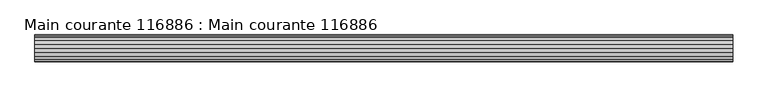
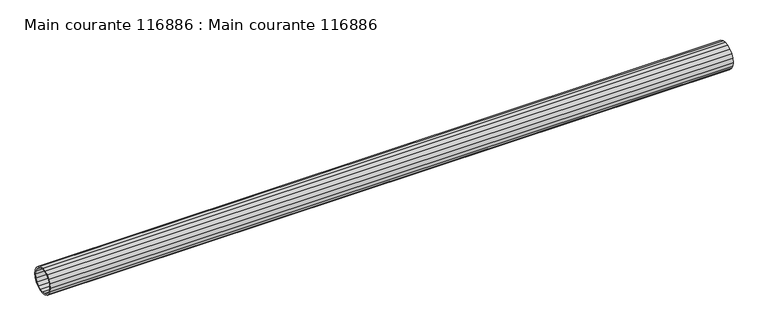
"""IFC4 building model written with IfcOpenShell, lengths in millimetres: beam geometry, Main courante 116886 : Main courante 116886."""

from ifc_helpers import new_model, si_unit, frame, origin, place, context, project, spatial, polyline, outline, extrude, source, transform, mapped, element, save


def main_courante_116886_main_courante_116886_96e47c2b(model_context):
    return source(origin(), model_context, "Body", "SweptSolid", [
        extrude(outline(polyline([(-35749.8127604, 8787.9680149), (-35742.35, 8789.15), (-35734.8872396, 8787.9680149), (-35728.1549862, 8784.5377604), (-35722.8122396, 8779.1950138), (-35719.3819851, 8772.4627604), (-35718.2, 8765.0), (-35719.3819851, 8757.5372396), (-35722.8122396, 8750.8049862), (-35728.1549862, 8745.4622396), (-35734.8872396, 8742.0319851), (-35742.35, 8740.85), (-35749.8127604, 8742.0319851), (-35756.5450138, 8745.4622396), (-35761.8877604, 8750.8049862), (-35765.3180149, 8757.5372396), (-35766.5, 8765.0), (-35765.3180149, 8772.4627604), (-35761.8877604, 8779.1950138), (-35756.5450138, 8784.5377604), (-35749.8127604, 8787.9680149)]), holes=[polyline([(-35764.0, 8765.0), (-35762.9403736, 8758.3097821), (-35759.8652179, 8752.2744493), (-35755.0755507, 8747.4847821), (-35749.0402179, 8744.4096264), (-35742.35, 8743.35), (-35735.6597821, 8744.4096264), (-35729.6244493, 8747.4847821), (-35724.8347821, 8752.2744493), (-35721.7596264, 8758.3097821), (-35720.7, 8765.0), (-35721.7596264, 8771.6902179), (-35724.8347821, 8777.7255507), (-35729.6244493, 8782.5152179), (-35735.6597821, 8785.5903736), (-35742.35, 8786.65), (-35749.0402179, 8785.5903736), (-35755.0755507, 8782.5152179), (-35759.8652179, 8777.7255507), (-35762.9403736, 8771.6902179), (-35764.0, 8765.0)])]), frame((11539.2815707, 0.0, 0.0), z_axis=(1.0, 0.0, 0.0), x_axis=(0.0, 1.0, 0.0)), (0.0, 0.0, 1.0), 1249.7184292),
    ])


if __name__ == "__main__":
    model = new_model("IFC4")
    model_context = context("Model", 3, world=origin())
    ifc_project = project(units=[si_unit("LENGTHUNIT", "METRE", prefix="MILLI")], contexts=[model_context])
    site = spatial("IfcSite", under=ifc_project)
    building = spatial("IfcBuilding", under=site)
    placement = place(None, origin())
    main_courante_116886_main_courante_116886_shape = main_courante_116886_main_courante_116886_96e47c2b(model_context)
    element("IfcBeam", 1, ObjectType="Main courante 116886 : Main courante 116886", at=placement, inside=building, context=model_context, shape_type="MappedRepresentation", body=[
        mapped(main_courante_116886_main_courante_116886_shape, transform((0.0, 0.0, 0.0), x_axis=(1.0, 0.0, 0.0), y_axis=(0.0, 1.0, 0.0), z_axis=(0.0, 0.0, 1.0))),
    ])
    save(model, "model.ifc")
